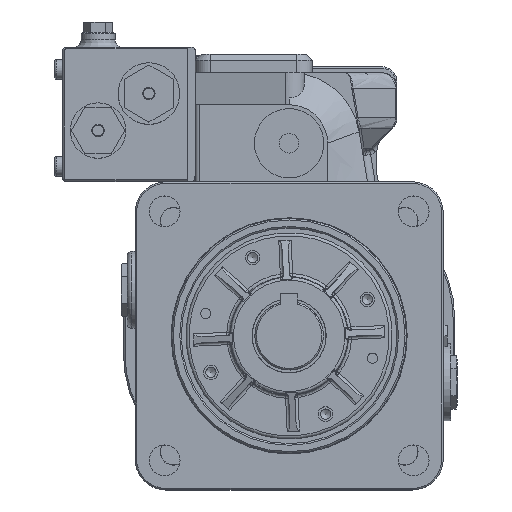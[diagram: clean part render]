
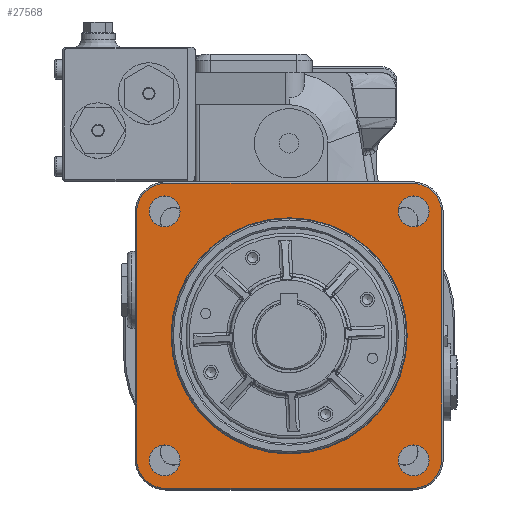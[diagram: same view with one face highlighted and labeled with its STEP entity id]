
A CAD part, top view. The second image highlights one B-rep face of the part: STEP entity #27568.
In plain terms, the highlighted planar face has unit normal (0, 0, 1).
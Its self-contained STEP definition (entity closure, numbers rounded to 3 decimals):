
#27354=CARTESIAN_POINT('',(76.6,0.,23.));
#27355=VERTEX_POINT('',#27354);
#27356=CARTESIAN_POINT('',(0.0,0.0,23.));
#27357=DIRECTION('',(0.0,0.0,1.0));
#27358=DIRECTION('',(-1.0,0.0,0.0));
#27359=AXIS2_PLACEMENT_3D('',#27356,#27357,#27358);
#27360=CIRCLE('',#27359,76.6);
#27361=EDGE_CURVE('',#27355,#27355,#27360,.T.);
#27446=CARTESIAN_POINT('',(0.,0.,23.));
#27447=DIRECTION('',(0.0,0.0,1.0));
#27448=DIRECTION('',(1.0,0.0,0.0));
#27449=AXIS2_PLACEMENT_3D('',#27446,#27447,#27448);
#27450=PLANE('',#27449);
#27451=CARTESIAN_POINT('',(-80.0,99.0,23.));
#27452=VERTEX_POINT('',#27451);
#27453=CARTESIAN_POINT('',(80.0,99.0,23.));
#27454=VERTEX_POINT('',#27453);
#27455=CARTESIAN_POINT('',(-80.0,99.0,23.));
#27456=DIRECTION('',(1.0,0.0,0.0));
#27457=VECTOR('',#27456,160.0);
#27458=LINE('',#27455,#27457);
#27459=EDGE_CURVE('',#27452,#27454,#27458,.T.);
#27460=ORIENTED_EDGE('',*,*,#27459,.F.);
#27461=CARTESIAN_POINT('',(-99.,80.0,23.));
#27462=VERTEX_POINT('',#27461);
#27463=CARTESIAN_POINT('',(-80.,80.,23.));
#27464=DIRECTION('',(0.0,0.0,-1.0));
#27465=DIRECTION('',(0.0,1.0,0.0));
#27466=AXIS2_PLACEMENT_3D('',#27463,#27464,#27465);
#27467=CIRCLE('',#27466,19.0);
#27468=EDGE_CURVE('',#27462,#27452,#27467,.T.);
#27469=ORIENTED_EDGE('',*,*,#27468,.F.);
#27470=CARTESIAN_POINT('',(-99.,-80.0,23.));
#27471=VERTEX_POINT('',#27470);
#27472=CARTESIAN_POINT('',(-99.,-80.0,23.));
#27473=DIRECTION('',(0.0,1.0,0.0));
#27474=VECTOR('',#27473,160.0);
#27475=LINE('',#27472,#27474);
#27476=EDGE_CURVE('',#27471,#27462,#27475,.T.);
#27477=ORIENTED_EDGE('',*,*,#27476,.F.);
#27478=CARTESIAN_POINT('',(-80.,-99.0,23.));
#27479=VERTEX_POINT('',#27478);
#27480=CARTESIAN_POINT('',(-80.,-80.,23.));
#27481=DIRECTION('',(0.0,0.0,-1.0));
#27482=DIRECTION('',(-1.0,0.0,0.0));
#27483=AXIS2_PLACEMENT_3D('',#27480,#27481,#27482);
#27484=CIRCLE('',#27483,19.);
#27485=EDGE_CURVE('',#27479,#27471,#27484,.T.);
#27486=ORIENTED_EDGE('',*,*,#27485,.F.);
#27487=CARTESIAN_POINT('',(80.,-99.,23.));
#27488=VERTEX_POINT('',#27487);
#27489=CARTESIAN_POINT('',(80.,-99.,23.));
#27490=DIRECTION('',(-1.0,0.0,0.0));
#27491=VECTOR('',#27490,160.);
#27492=LINE('',#27489,#27491);
#27493=EDGE_CURVE('',#27488,#27479,#27492,.T.);
#27494=ORIENTED_EDGE('',*,*,#27493,.F.);
#27495=CARTESIAN_POINT('',(99.,-80.0,23.));
#27496=VERTEX_POINT('',#27495);
#27497=CARTESIAN_POINT('',(80.,-80.,23.));
#27498=DIRECTION('',(0.0,0.0,-1.0));
#27499=DIRECTION('',(0.0,-1.0,0.0));
#27500=AXIS2_PLACEMENT_3D('',#27497,#27498,#27499);
#27501=CIRCLE('',#27500,19.);
#27502=EDGE_CURVE('',#27496,#27488,#27501,.T.);
#27503=ORIENTED_EDGE('',*,*,#27502,.F.);
#27504=CARTESIAN_POINT('',(99.,80.0,23.));
#27505=VERTEX_POINT('',#27504);
#27506=CARTESIAN_POINT('',(99.,80.0,23.));
#27507=DIRECTION('',(0.0,-1.0,0.0));
#27508=VECTOR('',#27507,160.0);
#27509=LINE('',#27506,#27508);
#27510=EDGE_CURVE('',#27505,#27496,#27509,.T.);
#27511=ORIENTED_EDGE('',*,*,#27510,.F.);
#27512=CARTESIAN_POINT('',(80.,80.,23.));
#27513=DIRECTION('',(0.0,0.0,-1.0));
#27514=DIRECTION('',(1.0,0.0,0.0));
#27515=AXIS2_PLACEMENT_3D('',#27512,#27513,#27514);
#27516=CIRCLE('',#27515,19.0);
#27517=EDGE_CURVE('',#27454,#27505,#27516,.T.);
#27518=ORIENTED_EDGE('',*,*,#27517,.F.);
#27519=EDGE_LOOP('',(#27460,#27469,#27477,#27486,#27494,#27503,#27511,#27518));
#27520=FACE_OUTER_BOUND('',#27519,.T.);
#27521=CARTESIAN_POINT('',(90.8,-80.8,23.));
#27522=VERTEX_POINT('',#27521);
#27523=CARTESIAN_POINT('',(80.8,-80.8,23.));
#27524=DIRECTION('',(0.0,0.0,-1.0));
#27525=DIRECTION('',(-1.0,0.0,0.0));
#27526=AXIS2_PLACEMENT_3D('',#27523,#27524,#27525);
#27527=CIRCLE('',#27526,10.0);
#27528=EDGE_CURVE('',#27522,#27522,#27527,.T.);
#27529=ORIENTED_EDGE('',*,*,#27528,.T.);
#27530=EDGE_LOOP('',(#27529));
#27531=FACE_BOUND('',#27530,.T.);
#27532=CARTESIAN_POINT('',(-70.8,80.8,23.));
#27533=VERTEX_POINT('',#27532);
#27534=CARTESIAN_POINT('',(-80.8,80.8,23.));
#27535=DIRECTION('',(0.0,0.0,-1.0));
#27536=DIRECTION('',(-1.0,0.0,0.0));
#27537=AXIS2_PLACEMENT_3D('',#27534,#27535,#27536);
#27538=CIRCLE('',#27537,10.0);
#27539=EDGE_CURVE('',#27533,#27533,#27538,.T.);
#27540=ORIENTED_EDGE('',*,*,#27539,.T.);
#27541=EDGE_LOOP('',(#27540));
#27542=FACE_BOUND('',#27541,.T.);
#27543=CARTESIAN_POINT('',(90.8,80.8,23.));
#27544=VERTEX_POINT('',#27543);
#27545=CARTESIAN_POINT('',(80.8,80.8,23.));
#27546=DIRECTION('',(0.0,0.0,-1.0));
#27547=DIRECTION('',(-1.0,0.0,0.0));
#27548=AXIS2_PLACEMENT_3D('',#27545,#27546,#27547);
#27549=CIRCLE('',#27548,10.0);
#27550=EDGE_CURVE('',#27544,#27544,#27549,.T.);
#27551=ORIENTED_EDGE('',*,*,#27550,.T.);
#27552=EDGE_LOOP('',(#27551));
#27553=FACE_BOUND('',#27552,.T.);
#27554=CARTESIAN_POINT('',(-70.8,-80.8,23.));
#27555=VERTEX_POINT('',#27554);
#27556=CARTESIAN_POINT('',(-80.8,-80.8,23.));
#27557=DIRECTION('',(0.0,0.0,-1.0));
#27558=DIRECTION('',(-1.0,0.0,0.0));
#27559=AXIS2_PLACEMENT_3D('',#27556,#27557,#27558);
#27560=CIRCLE('',#27559,10.0);
#27561=EDGE_CURVE('',#27555,#27555,#27560,.T.);
#27562=ORIENTED_EDGE('',*,*,#27561,.T.);
#27563=EDGE_LOOP('',(#27562));
#27564=FACE_BOUND('',#27563,.T.);
#27565=ORIENTED_EDGE('',*,*,#27361,.F.);
#27566=EDGE_LOOP('',(#27565));
#27567=FACE_BOUND('',#27566,.T.);
#27568=ADVANCED_FACE('',(#27520,#27531,#27542,#27553,#27564,#27567),#27450,.T.);
